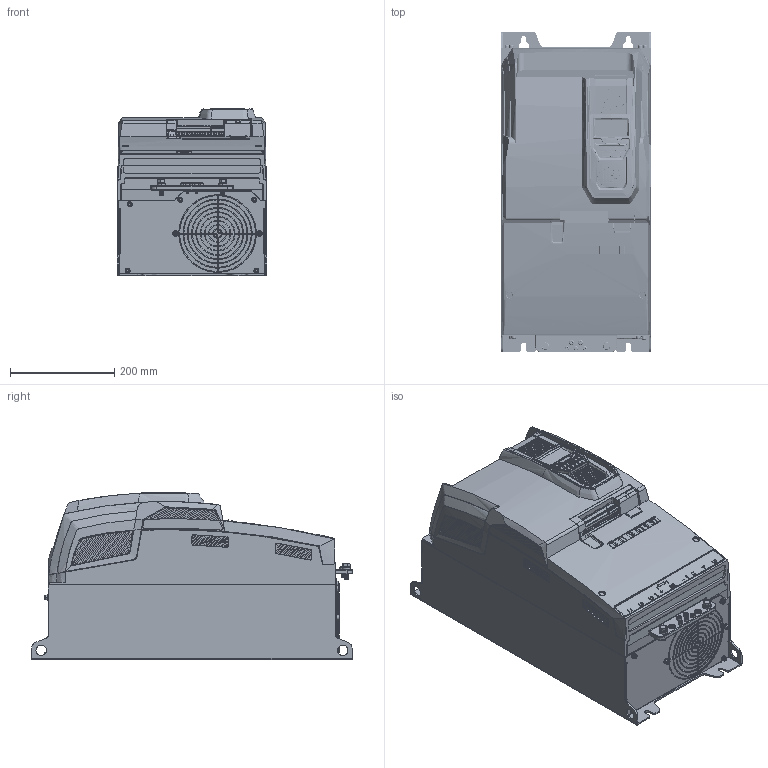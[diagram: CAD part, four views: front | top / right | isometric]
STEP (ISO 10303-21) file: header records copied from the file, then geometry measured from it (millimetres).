
FILE_DESCRIPTION (( 'STEP AP203' ), '1' );
FILE_NAME ('P2.IP20.S6A.TFT (ENVELOPE).STEP', '2022-01-25T11:29:32', ( '' ), ( '' ), 'SwSTEP 2.0', 'SolidWorks 2021', '' );
FILE_SCHEMA (( 'CONFIG_CONTROL_DESIGN' ));
Products named in the file (1): P2.IP20.S6A.TFT (ENVELOPE)
Bounding box: 286 x 614.3 x 320.32 mm (x, y, z)
Volume: 42593263.8 mm3; surface area: 965400.8 mm2
Topology: 1 solids, 1 shells, 7945 faces, 21447 edges, 14216 vertices
Faces by surface type: plane 5269, cylinder 1429, bspline 1072, cone 175
Entity records: 315096 total; most frequent: CARTESIAN_POINT 135293, ORIENTED_EDGE 42876, DIRECTION 27924, EDGE_CURVE 21438, VERTEX_POINT 14216, LINE 10936, VECTOR 10936, EDGE_LOOP 8874
